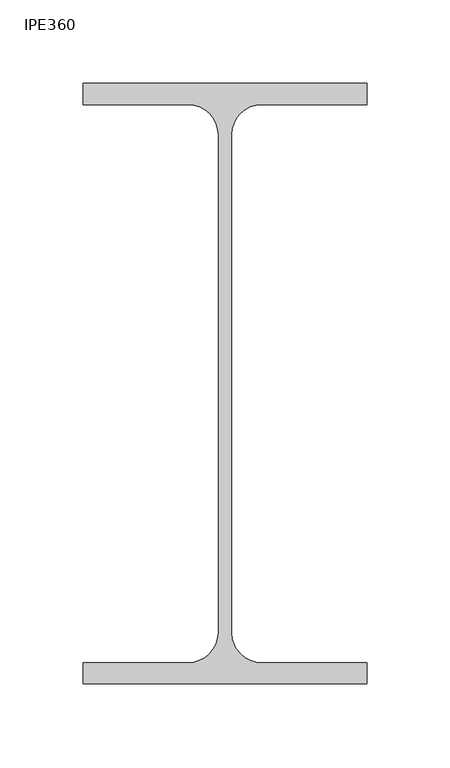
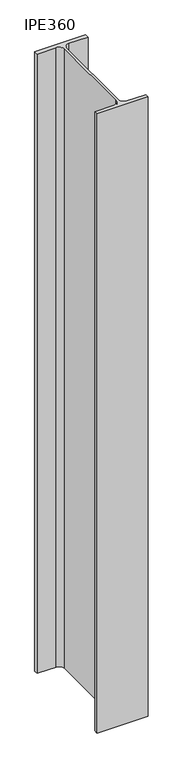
"""IFC4 building model written with IfcOpenShell, lengths in millimetres: column geometry, IPE-Poutrelles-Poteau : IPE360."""

from ifc_helpers import new_model, si_unit, point, frame, frame_2d, origin, place, context, project, spatial, polyline, circle_curve, trimmed, segment, composite_curve, outline, extrude, source, transform, mapped, element, save


def ipe360_f3b70704(model_context):
    return source(origin(), model_context, "Body", "SweptSolid", [
        extrude(outline(composite_curve([segment(polyline([(85.0, 180.0), (85.0, 167.3), (22.0, 167.3)]), True, "CONTINUOUS"), segment(trimmed(circle_curve(frame_2d((22.0, 149.3)), 18.0), [point((22.0, 167.3))], [point((4.0, 149.3))], True, "CARTESIAN"), True, "CONTINUOUS"), segment(polyline([(4.0, 149.3), (4.0, -149.3)]), True, "CONTINUOUS"), segment(trimmed(circle_curve(frame_2d((22.0, -149.3)), 18.0), [point((4.0, -149.3))], [point((22.0, -167.3))], True, "CARTESIAN"), True, "CONTINUOUS"), segment(polyline([(22.0, -167.3), (85.0, -167.3), (85.0, -180.0), (-85.0, -180.0), (-85.0, -167.3), (-22.0, -167.3)]), True, "CONTINUOUS"), segment(trimmed(circle_curve(frame_2d((-22.0, -149.3)), 18.0), [point((-22.0, -167.3))], [point((-4.0, -149.3))], True, "CARTESIAN"), True, "CONTINUOUS"), segment(polyline([(-4.0, -149.3), (-4.0, 149.3)]), True, "CONTINUOUS"), segment(trimmed(circle_curve(frame_2d((-22.0, 149.3)), 18.0), [point((-4.0, 149.3))], [point((-22.0, 167.3))], True, "CARTESIAN"), True, "CONTINUOUS"), segment(polyline([(-22.0, 167.3), (-85.0, 167.3), (-85.0, 180.0), (85.0, 180.0)]), True, "CONTINUOUS")], self_intersect=False)), frame((0.0, 0.0, -250.0), z_axis=(0.0, 0.0, 1.0), x_axis=(1.0, 0.0, 0.0)), (0.0, 0.0, 1.0), 2180.0),
    ])


if __name__ == "__main__":
    model = new_model("IFC4")
    model_context = context("Model", 3, world=origin())
    ifc_project = project(units=[si_unit("LENGTHUNIT", "METRE", prefix="MILLI")], contexts=[model_context])
    site = spatial("IfcSite", under=ifc_project)
    building = spatial("IfcBuilding", under=site)
    placement = place(None, origin())
    ipe360_shape = ipe360_f3b70704(model_context)
    element("IfcColumn", 1, ObjectType="IPE-Poutrelles-Poteau : IPE360", at=placement, inside=building, context=model_context, shape_type="MappedRepresentation", body=[
        mapped(ipe360_shape, transform((0.0, 0.0, 0.0), x_axis=(1.0, 0.0, 0.0), y_axis=(0.0, 1.0, 0.0), z_axis=(0.0, 0.0, 1.0))),
    ])
    save(model, "model.ifc")
